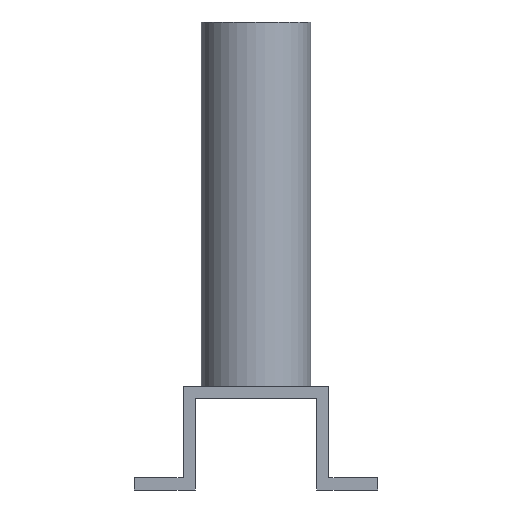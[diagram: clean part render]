
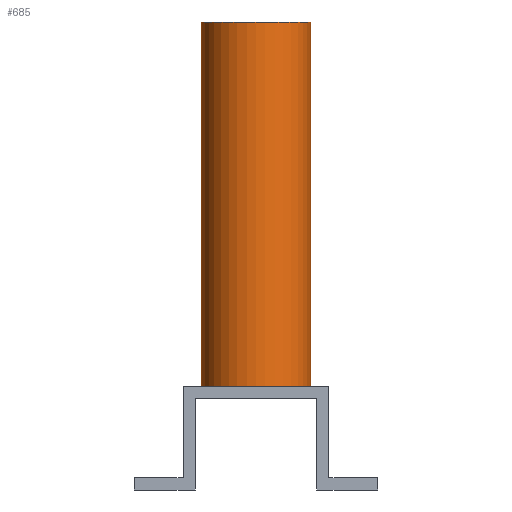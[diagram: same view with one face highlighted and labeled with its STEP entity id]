
A CAD part, front view. The second image highlights one B-rep face of the part: STEP entity #685.
In plain terms, the highlighted cylindrical face has radius 18 mm (diameter 36 mm), a partial arc.
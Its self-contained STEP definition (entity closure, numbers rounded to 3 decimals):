
#72=B_SPLINE_CURVE_WITH_KNOTS('',3,(#969,#970,#971,#972,#973,#974,#975),
 .UNSPECIFIED.,.F.,.F.,(4,1,1,1,4),(0.009,0.012,
0.014,0.016,0.019),.UNSPECIFIED.);
#74=CYLINDRICAL_SURFACE('',#717,18.);
#81=CIRCLE('',#711,18.);
#83=CIRCLE('',#718,18.);
#129=ORIENTED_EDGE('',*,*,#249,.T.);
#130=ORIENTED_EDGE('',*,*,#250,.F.);
#131=ORIENTED_EDGE('',*,*,#226,.T.);
#132=ORIENTED_EDGE('',*,*,#251,.F.);
#133=ORIENTED_EDGE('',*,*,#252,.F.);
#134=ORIENTED_EDGE('',*,*,#253,.F.);
#226=EDGE_CURVE('',#288,#289,#81,.T.);
#249=EDGE_CURVE('',#306,#307,#83,.T.);
#250=EDGE_CURVE('',#288,#307,#353,.F.);
#251=EDGE_CURVE('',#308,#289,#354,.T.);
#252=EDGE_CURVE('',#309,#308,#72,.T.);
#253=EDGE_CURVE('',#306,#309,#355,.T.);
#288=VERTEX_POINT('',#918);
#289=VERTEX_POINT('',#919);
#306=VERTEX_POINT('',#964);
#307=VERTEX_POINT('',#965);
#308=VERTEX_POINT('',#968);
#309=VERTEX_POINT('',#976);
#353=LINE('',#966,#404);
#354=LINE('',#967,#405);
#355=LINE('',#977,#406);
#404=VECTOR('',#813,1000.);
#405=VECTOR('',#814,1000.);
#406=VECTOR('',#815,1000.);
#433=EDGE_LOOP('',(#129,#130,#131,#132,#133,#134));
#466=FACE_BOUND('',#433,.T.);
#685=ADVANCED_FACE('',(#466),#74,.T.);
#711=AXIS2_PLACEMENT_3D('',#917,#776,#777);
#717=AXIS2_PLACEMENT_3D('',#962,#809,#810);
#718=AXIS2_PLACEMENT_3D('',#963,#811,#812);
#776=DIRECTION('',(0.,0.,1.));
#777=DIRECTION('',(1.,0.,0.));
#809=DIRECTION('',(0.,0.,-1.));
#810=DIRECTION('',(-1.,0.,0.));
#811=DIRECTION('',(0.,0.,-1.));
#812=DIRECTION('',(1.,0.,0.));
#813=DIRECTION('',(0.,0.,-1.));
#814=DIRECTION('',(0.,0.,-1.));
#815=DIRECTION('',(0.,0.,-1.));
#917=CARTESIAN_POINT('',(0.,0.,34.));
#918=CARTESIAN_POINT('',(-18.,0.,34.));
#919=CARTESIAN_POINT('',(0.,18.,34.));
#962=CARTESIAN_POINT('',(0.,0.,154.));
#963=CARTESIAN_POINT('',(0.,0.,154.));
#964=CARTESIAN_POINT('',(0.,18.,154.));
#965=CARTESIAN_POINT('',(-18.,0.,154.));
#966=CARTESIAN_POINT('',(-18.,0.,154.));
#967=CARTESIAN_POINT('',(0.,18.,154.));
#968=CARTESIAN_POINT('',(0.,18.,97.));
#969=CARTESIAN_POINT('',(0.,18.,103.));
#970=CARTESIAN_POINT('',(0.784,18.,103.));
#971=CARTESIAN_POINT('',(2.348,17.875,102.353));
#972=CARTESIAN_POINT('',(3.326,17.685,100.002));
#973=CARTESIAN_POINT('',(2.348,17.875,97.651));
#974=CARTESIAN_POINT('',(0.794,18.,97.));
#975=CARTESIAN_POINT('',(0.,18.,97.));
#976=CARTESIAN_POINT('',(0.,18.,103.));
#977=CARTESIAN_POINT('',(0.,18.,154.));
